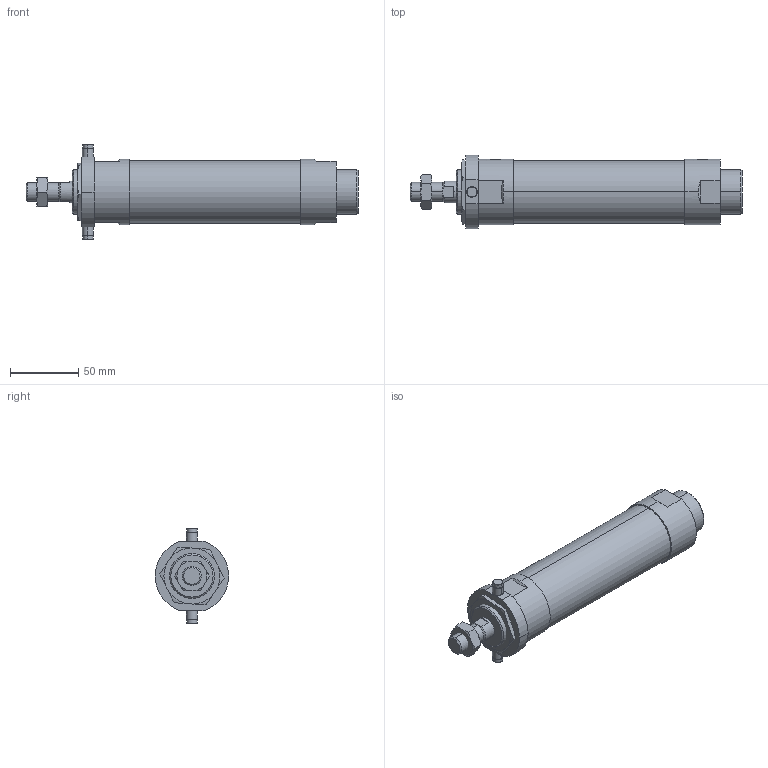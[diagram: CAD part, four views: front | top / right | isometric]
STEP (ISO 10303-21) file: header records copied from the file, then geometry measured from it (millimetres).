
FILE_DESCRIPTION (( 'STEP AP203' ), '1' );
FILE_NAME ('J#2-40-75-T.STEP', '2016-03-08T07:56:54', ( '' ), ( '' ), 'SwSTEP 2.0', 'SolidWorks 2014', '' );
FILE_SCHEMA (( 'CONFIG_CONTROL_DESIGN' ));
Length unit declared in the file: millimetre
Products named in the file (5): J#2-40-75; J#2-40-75-T; J#2-40-T
Assembly tree (4 placements, depth 2):
  J#2-40-75-T
    J#2-40-75
    (unnamed)
    (unnamed)
    J#2-40-T
Bounding box: 244 x 53.91 x 70 mm (x, y, z)
Volume: 350410.4 mm3; surface area: 45110 mm2
Topology: 4 solids, 4 shells, 121 faces, 279 edges, 171 vertices
Faces by surface type: plane 39, cylinder 35, torus 24, cone 23
Entity records: 4265 total; most frequent: CARTESIAN_POINT 1053, DIRECTION 576, ORIENTED_EDGE 550, EDGE_CURVE 275, AXIS2_PLACEMENT_3D 236, VERTEX_POINT 171, EDGE_LOOP 136, ADVANCED_FACE 121
